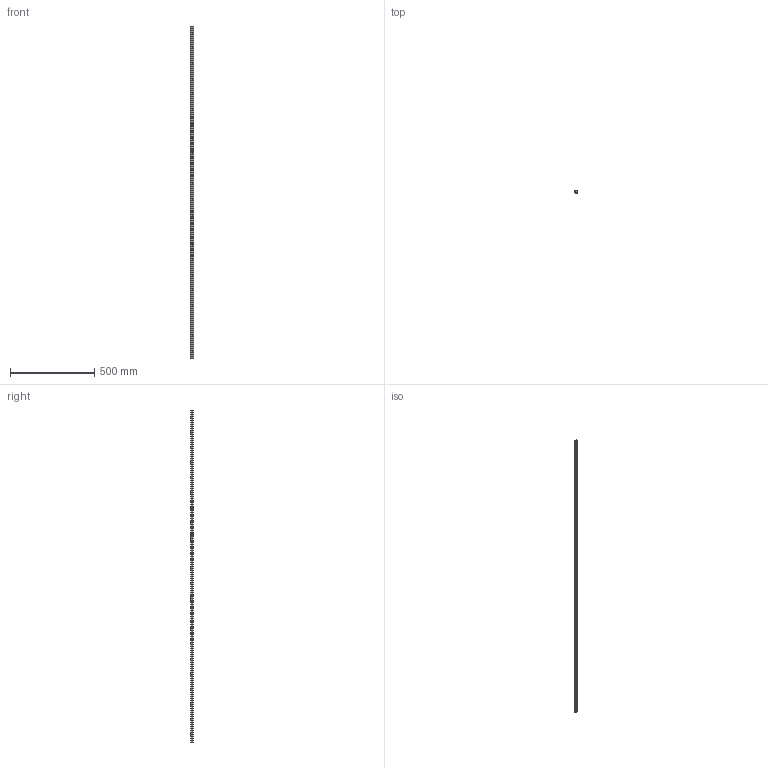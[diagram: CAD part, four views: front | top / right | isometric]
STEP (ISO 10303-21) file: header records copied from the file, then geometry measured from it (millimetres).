
FILE_DESCRIPTION(('STEP AP203'),'1');
FILE_NAME('slide_nsel1976p1.stp','2022-07-04T01:22:26',('TraceParts'),('TraceParts S.A.'),'Spatial InterOp 3D',' ',' ');
FILE_SCHEMA(('CONFIG_CONTROL_DESIGN'));
Length unit declared in the file: millimetre
Products named in the file (1): 1
Bounding box: 20.8 x 12.26 x 1976 mm (x, y, z)
Volume: 370742.8 mm3; surface area: 142691.3 mm2
Topology: 1 solids, 1 shells, 133 faces, 327 edges, 218 vertices
Faces by surface type: cylinder 98, plane 35
Entity records: 4169 total; most frequent: DIRECTION 791, CARTESIAN_POINT 679, ORIENTED_EDGE 654, AXIS2_PLACEMENT_3D 330, EDGE_CURVE 327, VERTEX_POINT 218, EDGE_LOOP 199, CIRCLE 196
